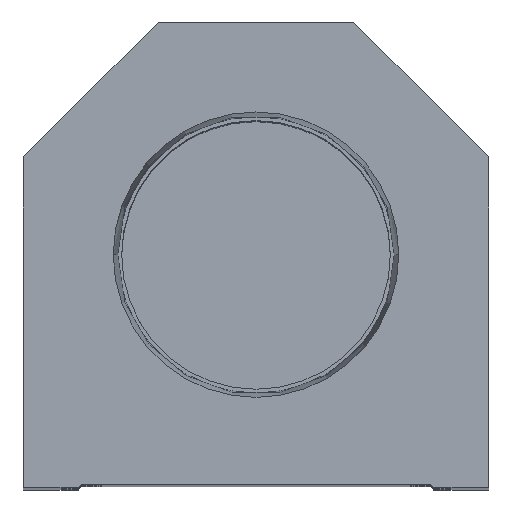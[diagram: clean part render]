
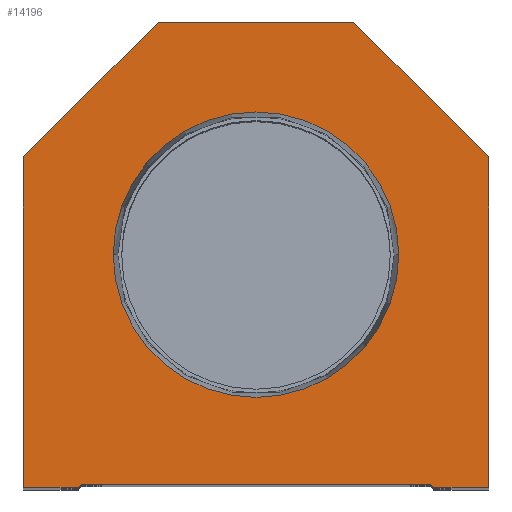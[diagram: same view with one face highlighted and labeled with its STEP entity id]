
A CAD part, top view. The second image highlights one B-rep face of the part: STEP entity #14196.
In plain terms, the highlighted planar face has unit normal (0, 0, 1).
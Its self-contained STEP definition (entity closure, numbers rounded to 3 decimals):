
#589 = CARTESIAN_POINT ( 'NONE',  ( 38.1, 0., 0. ) ) ;
#657 = ORIENTED_EDGE ( 'NONE', *, *, #3504, .T. ) ;
#694 = DIRECTION ( 'NONE',  ( 1., 0., 0. ) ) ;
#1052 = CARTESIAN_POINT ( 'NONE',  ( -28.6, 0.5, 0. ) ) ;
#1055 = EDGE_CURVE ( 'NONE', #6953, #18508, #21686, .T. ) ;
#1302 = ORIENTED_EDGE ( 'NONE', *, *, #18661, .T. ) ;
#1583 = CARTESIAN_POINT ( 'NONE',  ( 38.1, 0., 0. ) ) ;
#1685 = EDGE_CURVE ( 'NONE', #23661, #24562, #19241, .T. ) ;
#3011 = CARTESIAN_POINT ( 'NONE',  ( 23.374, 38.1, 0. ) ) ;
#3322 = DIRECTION ( 'NONE',  ( -1., 0., 0. ) ) ;
#3390 = LINE ( 'NONE', #14806, #11189 ) ;
#3504 = EDGE_CURVE ( 'NONE', #18508, #19715, #10891, .T. ) ;
#3526 = DIRECTION ( 'NONE',  ( -0.707, 0.707, 0. ) ) ;
#3931 = ORIENTED_EDGE ( 'NONE', *, *, #1055, .T. ) ;
#3957 = VECTOR ( 'NONE', #3526, 1000. ) ;
#4253 = CARTESIAN_POINT ( 'NONE',  ( 28.6, 0.5, 0. ) ) ;
#4273 = FACE_BOUND ( 'NONE', #22211, .T. ) ;
#4541 = DIRECTION ( 'NONE',  ( 1., 0., 0. ) ) ;
#5299 = DIRECTION ( 'NONE',  ( 0., 1., 0. ) ) ;
#5761 = CARTESIAN_POINT ( 'NONE',  ( 0., 0., 0. ) ) ;
#6126 = PLANE ( 'NONE',  #15874 ) ;
#6216 = EDGE_CURVE ( 'NONE', #14377, #18745, #17593, .T. ) ;
#6472 = DIRECTION ( 'NONE',  ( 0., 0., 1. ) ) ;
#6953 = VERTEX_POINT ( 'NONE', #15177 ) ;
#7008 = DIRECTION ( 'NONE',  ( 1., 0., 0. ) ) ;
#7255 = ORIENTED_EDGE ( 'NONE', *, *, #20681, .T. ) ;
#7275 = CARTESIAN_POINT ( 'NONE',  ( 0., 38.1, 0. ) ) ;
#7529 = VECTOR ( 'NONE', #694, 1000. ) ;
#7671 = CARTESIAN_POINT ( 'NONE',  ( -16., 76.2, 0. ) ) ;
#7998 = FACE_OUTER_BOUND ( 'NONE', #15429, .T. ) ;
#8648 = CARTESIAN_POINT ( 'NONE',  ( 14.55, 14.55, 0. ) ) ;
#8802 = VERTEX_POINT ( 'NONE', #11915 ) ;
#9170 = DIRECTION ( 'NONE',  ( 1., 0., 0. ) ) ;
#9216 = VERTEX_POINT ( 'NONE', #24043 ) ;
#9374 = CARTESIAN_POINT ( 'NONE',  ( -23.374, 38.1, 0. ) ) ;
#9637 = DIRECTION ( 'NONE',  ( 1., 0., 0. ) ) ;
#10065 = EDGE_CURVE ( 'NONE', #9216, #8802, #22020, .T. ) ;
#10393 = LINE ( 'NONE', #24040, #14326 ) ;
#10829 = AXIS2_PLACEMENT_3D ( 'NONE', #17962, #6472, #15942 ) ;
#10891 = LINE ( 'NONE', #1583, #19290 ) ;
#10957 = DIRECTION ( 'NONE',  ( -0.707, -0.707, 0. ) ) ;
#11034 = ORIENTED_EDGE ( 'NONE', *, *, #15409, .T. ) ;
#11173 = ORIENTED_EDGE ( 'NONE', *, *, #19335, .T. ) ;
#11189 = VECTOR ( 'NONE', #10957, 1000. ) ;
#11216 = CARTESIAN_POINT ( 'NONE',  ( 16., 76.2, 0. ) ) ;
#11334 = EDGE_CURVE ( 'NONE', #18745, #14377, #22951, .T. ) ;
#11915 = CARTESIAN_POINT ( 'NONE',  ( -38.1, 0., 0. ) ) ;
#12277 = ORIENTED_EDGE ( 'NONE', *, *, #11334, .F. ) ;
#12359 = LINE ( 'NONE', #8648, #16761 ) ;
#12515 = ORIENTED_EDGE ( 'NONE', *, *, #6216, .F. ) ;
#12742 = LINE ( 'NONE', #20347, #13085 ) ;
#13085 = VECTOR ( 'NONE', #3322, 1000. ) ;
#13434 = LINE ( 'NONE', #21035, #3957 ) ;
#13503 = VECTOR ( 'NONE', #4541, 1000. ) ;
#13706 = DIRECTION ( 'NONE',  ( 0., 0., 1. ) ) ;
#14196 = ADVANCED_FACE ( 'NONE', ( #4273, #7998 ), #6126, .T. ) ;
#14326 = VECTOR ( 'NONE', #7008, 1000. ) ;
#14377 = VERTEX_POINT ( 'NONE', #3011 ) ;
#14611 = AXIS2_PLACEMENT_3D ( 'NONE', #7275, #18644, #9170 ) ;
#14806 = CARTESIAN_POINT ( 'NONE',  ( -38.1, 54.1, 0. ) ) ;
#15177 = CARTESIAN_POINT ( 'NONE',  ( 29.1, 0., 0. ) ) ;
#15370 = ORIENTED_EDGE ( 'NONE', *, *, #1685, .T. ) ;
#15409 = EDGE_CURVE ( 'NONE', #8802, #23661, #10393, .T. ) ;
#15429 = EDGE_LOOP ( 'NONE', ( #11034, #15370, #1302, #7255, #3931, #657, #11173, #20433, #18164, #18472 ) ) ;
#15874 = AXIS2_PLACEMENT_3D ( 'NONE', #5761, #13706, #9637 ) ;
#15942 = DIRECTION ( 'NONE',  ( 1., 0., 0. ) ) ;
#15948 = VERTEX_POINT ( 'NONE', #11216 ) ;
#16761 = VECTOR ( 'NONE', #23670, 1000. ) ;
#17593 = CIRCLE ( 'NONE', #10829, 23.374 ) ;
#17604 = CARTESIAN_POINT ( 'NONE',  ( -14.55, 14.55, 0. ) ) ;
#17743 = CARTESIAN_POINT ( 'NONE',  ( 28.6, 0., 0. ) ) ;
#17904 = VECTOR ( 'NONE', #21658, 1000. ) ;
#17962 = CARTESIAN_POINT ( 'NONE',  ( 0., 38.1, 0. ) ) ;
#18101 = LINE ( 'NONE', #1052, #13503 ) ;
#18163 = VECTOR ( 'NONE', #20938, 1000. ) ;
#18164 = ORIENTED_EDGE ( 'NONE', *, *, #21259, .T. ) ;
#18408 = CARTESIAN_POINT ( 'NONE',  ( 38.1, 54.1, 0. ) ) ;
#18443 = EDGE_CURVE ( 'NONE', #15948, #22042, #12742, .T. ) ;
#18472 = ORIENTED_EDGE ( 'NONE', *, *, #10065, .T. ) ;
#18508 = VERTEX_POINT ( 'NONE', #589 ) ;
#18644 = DIRECTION ( 'NONE',  ( 0., 0., 1. ) ) ;
#18661 = EDGE_CURVE ( 'NONE', #24562, #24470, #18101, .T. ) ;
#18745 = VERTEX_POINT ( 'NONE', #9374 ) ;
#19241 = LINE ( 'NONE', #17604, #18163 ) ;
#19290 = VECTOR ( 'NONE', #5299, 1000. ) ;
#19335 = EDGE_CURVE ( 'NONE', #19715, #15948, #13434, .T. ) ;
#19715 = VERTEX_POINT ( 'NONE', #18408 ) ;
#20347 = CARTESIAN_POINT ( 'NONE',  ( 16., 76.2, 0. ) ) ;
#20433 = ORIENTED_EDGE ( 'NONE', *, *, #18443, .T. ) ;
#20681 = EDGE_CURVE ( 'NONE', #24470, #6953, #12359, .T. ) ;
#20938 = DIRECTION ( 'NONE',  ( 0.707, 0.707, 0. ) ) ;
#21035 = CARTESIAN_POINT ( 'NONE',  ( 38.1, 54.1, 0. ) ) ;
#21259 = EDGE_CURVE ( 'NONE', #22042, #9216, #3390, .T. ) ;
#21658 = DIRECTION ( 'NONE',  ( 0., -1., 0. ) ) ;
#21686 = LINE ( 'NONE', #17743, #7529 ) ;
#22020 = LINE ( 'NONE', #23752, #17904 ) ;
#22042 = VERTEX_POINT ( 'NONE', #7671 ) ;
#22211 = EDGE_LOOP ( 'NONE', ( #12515, #12277 ) ) ;
#22951 = CIRCLE ( 'NONE', #14611, 23.374 ) ;
#23206 = CARTESIAN_POINT ( 'NONE',  ( -29.1, 0., 0. ) ) ;
#23490 = CARTESIAN_POINT ( 'NONE',  ( -28.6, 0.5, 0. ) ) ;
#23661 = VERTEX_POINT ( 'NONE', #23206 ) ;
#23670 = DIRECTION ( 'NONE',  ( 0.707, -0.707, 0. ) ) ;
#23752 = CARTESIAN_POINT ( 'NONE',  ( -38.1, 0., 0. ) ) ;
#24040 = CARTESIAN_POINT ( 'NONE',  ( -28.6, 0., 0. ) ) ;
#24043 = CARTESIAN_POINT ( 'NONE',  ( -38.1, 54.1, 0. ) ) ;
#24470 = VERTEX_POINT ( 'NONE', #4253 ) ;
#24562 = VERTEX_POINT ( 'NONE', #23490 ) ;
